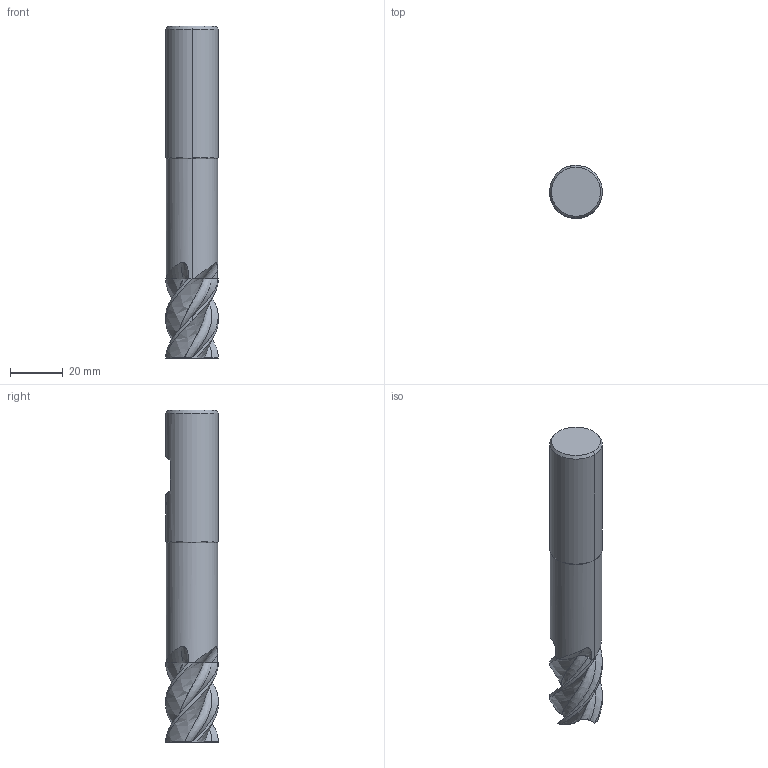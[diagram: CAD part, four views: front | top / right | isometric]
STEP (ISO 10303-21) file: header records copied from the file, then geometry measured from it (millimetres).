
FILE_DESCRIPTION(('no description'),'unknown implementation level');
FILE_NAME('solidROnAtdfiPFtXtdtpoN8GPeIBKnA_1.STP',' ',('CIMSOURCE GmbH'),('CADClick - KiM GmbH - www.kimweb.de'),'unknown preprocess','ACIS','unknown authorization');
FILE_SCHEMA(('automotive_design'));
Length unit declared in the file: millimetre
Products named in the file (2): NOCUT; CUT
Bounding box: 20 x 20 x 126 mm (x, y, z)
Volume: 34003.1 mm3; surface area: 10813.8 mm2
Topology: 2 solids, 2 shells, 123 faces, 348 edges, 228 vertices
Faces by surface type: bspline 48, plane 26, cone 22, cylinder 15, revolution 12
Entity records: 25080 total; most frequent: CARTESIAN_POINT 18423, STYLED_ITEM 701, PRESENTATION_STYLE_ASSIGNMENT 701, COLOUR_RGB 701, ORIENTED_EDGE 696, DIRECTION 395, EDGE_CURVE 348, CURVE_STYLE 348
